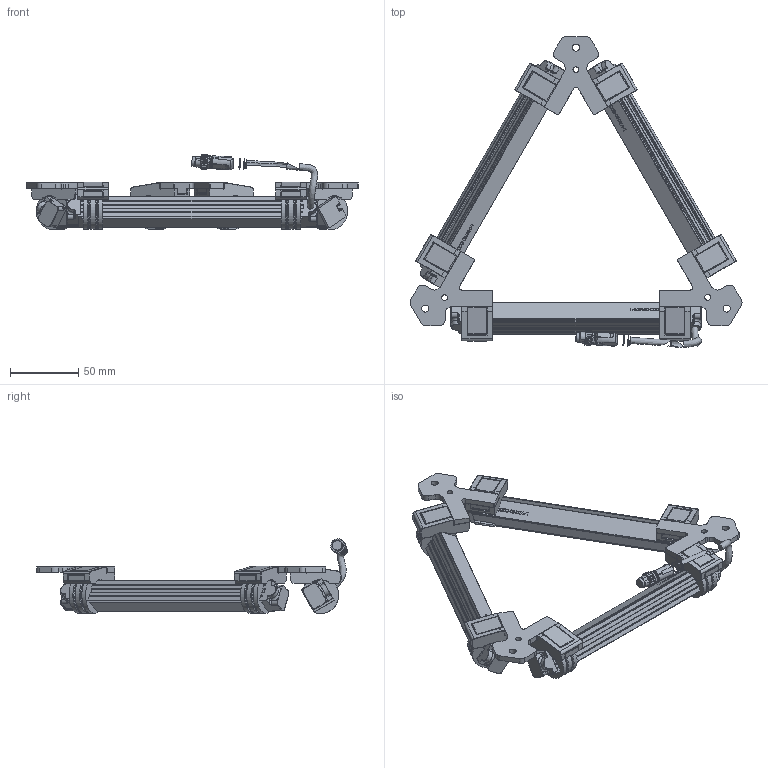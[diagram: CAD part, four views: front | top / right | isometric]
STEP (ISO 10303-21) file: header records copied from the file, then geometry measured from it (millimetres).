
FILE_DESCRIPTION(/* description */ ('TS14-160x160'),/* implementation_level */ '2;1');
FILE_NAME(/* name */ 'S:\Entwicklung\Projekte\TS14-160x160-xxxx-CLR-S\V2018.01\DOC\TS14-160x160-xxxx-CLR-S.stp',/* time_stamp */ '2018-08-13T17:40:00+02:00',/* author */ ('S. Ludwig'),/* organization */ ('evotron GmbH & Co. KG Pfuetschbergstrasse 16 98527 Suhl'),/* preprocessor_version */ 'ST-DEVELOPER v18.1',/* authorisation */ '');
FILE_SCHEMA (('AUTOMOTIVE_DESIGN { 1 0 10303 214 3 1 1 }'));
Products named in the file (1): TS14-160x160-xxxx-CLR-S_Shrinkwrap_1
Bounding box: 242.61 x 227.02 x 54.79 mm (x, y, z)
Volume: 219369.4 mm3; surface area: 89459.8 mm2
Topology: 1 solids, 49 shells, 4149 faces, 10958 edges, 6583 vertices
Faces by surface type: plane 1720, cylinder 1177, bspline 755, sphere 240, torus 237, cone 20
Full cylindrical faces by diameter (mm): 4.2 x3, 5.2 x3, 6.25 x1, 6.9 x2, 9.5 x1
Entity records: 155176 total; most frequent: CARTESIAN_POINT 52232, ORIENTED_EDGE 21604, DIRECTION 19265, EDGE_CURVE 10880, VERTEX_POINT 6583, AXIS2_PLACEMENT_3D 6529, LINE 6207, VECTOR 6207
